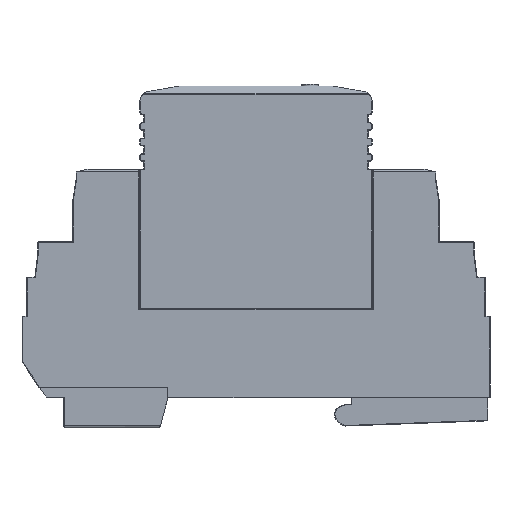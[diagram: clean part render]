
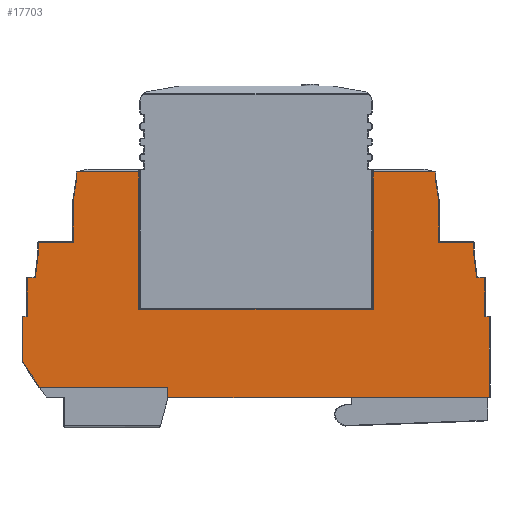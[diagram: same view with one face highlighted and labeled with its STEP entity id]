
A CAD part, front view. The second image highlights one B-rep face of the part: STEP entity #17703.
In plain terms, the highlighted planar face has unit normal (0, -1, 0).
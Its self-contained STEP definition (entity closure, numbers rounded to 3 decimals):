
#288=PLANE('',#18951);
#1057=FACE_OUTER_BOUND('',#2085,.T.);
#2085=EDGE_LOOP('',(#12901,#12902,#12903,#12904,#12905,#12906,#12907,#12908,
#12909,#12910,#12911,#12912,#12913,#12914,#12915,#12916,#12917,#12918,#12919,
#12920,#12921,#12922,#12923,#12924,#12925,#12926,#12927,#12928,#12929));
#4013=LINE('',#26684,#6019);
#4016=LINE('',#26699,#6022);
#4019=LINE('',#26716,#6025);
#4022=LINE('',#26726,#6028);
#4035=LINE('',#26768,#6041);
#4073=LINE('',#26846,#6079);
#4074=LINE('',#26848,#6080);
#4075=LINE('',#26850,#6081);
#4076=LINE('',#26852,#6082);
#4077=LINE('',#26854,#6083);
#4078=LINE('',#26856,#6084);
#4079=LINE('',#26858,#6085);
#4080=LINE('',#26860,#6086);
#4081=LINE('',#26862,#6087);
#4082=LINE('',#26864,#6088);
#4083=LINE('',#26866,#6089);
#4084=LINE('',#26868,#6090);
#4085=LINE('',#26870,#6091);
#4086=LINE('',#26872,#6092);
#4087=LINE('',#26874,#6093);
#4088=LINE('',#26876,#6094);
#4089=LINE('',#26878,#6095);
#4090=LINE('',#26880,#6096);
#4091=LINE('',#26882,#6097);
#4092=LINE('',#26884,#6098);
#4093=LINE('',#26886,#6099);
#4094=LINE('',#26888,#6100);
#4095=LINE('',#26890,#6101);
#4096=LINE('',#26891,#6102);
#6019=VECTOR('',#21191,10.);
#6022=VECTOR('',#21206,10.);
#6025=VECTOR('',#21225,10.);
#6028=VECTOR('',#21234,10.);
#6041=VECTOR('',#21281,10.);
#6079=VECTOR('',#21351,10.);
#6080=VECTOR('',#21352,10.);
#6081=VECTOR('',#21353,10.);
#6082=VECTOR('',#21354,10.);
#6083=VECTOR('',#21355,10.);
#6084=VECTOR('',#21356,10.);
#6085=VECTOR('',#21357,10.);
#6086=VECTOR('',#21358,10.);
#6087=VECTOR('',#21359,10.);
#6088=VECTOR('',#21360,10.);
#6089=VECTOR('',#21361,10.);
#6090=VECTOR('',#21362,10.);
#6091=VECTOR('',#21363,10.);
#6092=VECTOR('',#21364,10.);
#6093=VECTOR('',#21365,10.);
#6094=VECTOR('',#21366,10.);
#6095=VECTOR('',#21367,10.);
#6096=VECTOR('',#21368,10.);
#6097=VECTOR('',#21369,10.);
#6098=VECTOR('',#21370,10.);
#6099=VECTOR('',#21371,10.);
#6100=VECTOR('',#21372,10.);
#6101=VECTOR('',#21373,10.);
#6102=VECTOR('',#21374,10.);
#8000=VERTEX_POINT('',#26677);
#8002=VERTEX_POINT('',#26682);
#8008=VERTEX_POINT('',#26698);
#8013=VERTEX_POINT('',#26711);
#8014=VERTEX_POINT('',#26715);
#8018=VERTEX_POINT('',#26725);
#8054=VERTEX_POINT('',#26845);
#8055=VERTEX_POINT('',#26847);
#8056=VERTEX_POINT('',#26849);
#8057=VERTEX_POINT('',#26851);
#8058=VERTEX_POINT('',#26853);
#8059=VERTEX_POINT('',#26855);
#8060=VERTEX_POINT('',#26857);
#8061=VERTEX_POINT('',#26859);
#8062=VERTEX_POINT('',#26861);
#8063=VERTEX_POINT('',#26863);
#8064=VERTEX_POINT('',#26865);
#8065=VERTEX_POINT('',#26867);
#8066=VERTEX_POINT('',#26869);
#8067=VERTEX_POINT('',#26871);
#8068=VERTEX_POINT('',#26873);
#8069=VERTEX_POINT('',#26875);
#8070=VERTEX_POINT('',#26877);
#8071=VERTEX_POINT('',#26879);
#8072=VERTEX_POINT('',#26881);
#8073=VERTEX_POINT('',#26883);
#8074=VERTEX_POINT('',#26885);
#8075=VERTEX_POINT('',#26887);
#8076=VERTEX_POINT('',#26889);
#9788=EDGE_CURVE('',#8002,#8000,#4013,.T.);
#9795=EDGE_CURVE('',#8000,#8008,#4016,.T.);
#9803=EDGE_CURVE('',#8014,#8013,#4019,.T.);
#9808=EDGE_CURVE('',#8013,#8018,#4022,.T.);
#9830=EDGE_CURVE('',#8008,#8014,#4035,.T.);
#9872=EDGE_CURVE('',#8054,#8002,#4073,.T.);
#9873=EDGE_CURVE('',#8055,#8054,#4074,.T.);
#9874=EDGE_CURVE('',#8056,#8055,#4075,.T.);
#9875=EDGE_CURVE('',#8057,#8056,#4076,.T.);
#9876=EDGE_CURVE('',#8058,#8057,#4077,.T.);
#9877=EDGE_CURVE('',#8059,#8058,#4078,.T.);
#9878=EDGE_CURVE('',#8060,#8059,#4079,.T.);
#9879=EDGE_CURVE('',#8061,#8060,#4080,.T.);
#9880=EDGE_CURVE('',#8062,#8061,#4081,.T.);
#9881=EDGE_CURVE('',#8063,#8062,#4082,.T.);
#9882=EDGE_CURVE('',#8064,#8063,#4083,.T.);
#9883=EDGE_CURVE('',#8064,#8065,#4084,.T.);
#9884=EDGE_CURVE('',#8065,#8066,#4085,.T.);
#9885=EDGE_CURVE('',#8067,#8066,#4086,.T.);
#9886=EDGE_CURVE('',#8068,#8067,#4087,.T.);
#9887=EDGE_CURVE('',#8069,#8068,#4088,.T.);
#9888=EDGE_CURVE('',#8070,#8069,#4089,.T.);
#9889=EDGE_CURVE('',#8071,#8070,#4090,.T.);
#9890=EDGE_CURVE('',#8072,#8071,#4091,.T.);
#9891=EDGE_CURVE('',#8073,#8072,#4092,.T.);
#9892=EDGE_CURVE('',#8074,#8073,#4093,.T.);
#9893=EDGE_CURVE('',#8075,#8074,#4094,.T.);
#9894=EDGE_CURVE('',#8076,#8075,#4095,.T.);
#9895=EDGE_CURVE('',#8018,#8076,#4096,.T.);
#12901=ORIENTED_EDGE('',*,*,#9808,.F.);
#12902=ORIENTED_EDGE('',*,*,#9803,.F.);
#12903=ORIENTED_EDGE('',*,*,#9830,.F.);
#12904=ORIENTED_EDGE('',*,*,#9795,.F.);
#12905=ORIENTED_EDGE('',*,*,#9788,.F.);
#12906=ORIENTED_EDGE('',*,*,#9872,.F.);
#12907=ORIENTED_EDGE('',*,*,#9873,.F.);
#12908=ORIENTED_EDGE('',*,*,#9874,.F.);
#12909=ORIENTED_EDGE('',*,*,#9875,.F.);
#12910=ORIENTED_EDGE('',*,*,#9876,.F.);
#12911=ORIENTED_EDGE('',*,*,#9877,.F.);
#12912=ORIENTED_EDGE('',*,*,#9878,.F.);
#12913=ORIENTED_EDGE('',*,*,#9879,.F.);
#12914=ORIENTED_EDGE('',*,*,#9880,.F.);
#12915=ORIENTED_EDGE('',*,*,#9881,.F.);
#12916=ORIENTED_EDGE('',*,*,#9882,.F.);
#12917=ORIENTED_EDGE('',*,*,#9883,.T.);
#12918=ORIENTED_EDGE('',*,*,#9884,.T.);
#12919=ORIENTED_EDGE('',*,*,#9885,.F.);
#12920=ORIENTED_EDGE('',*,*,#9886,.F.);
#12921=ORIENTED_EDGE('',*,*,#9887,.F.);
#12922=ORIENTED_EDGE('',*,*,#9888,.F.);
#12923=ORIENTED_EDGE('',*,*,#9889,.F.);
#12924=ORIENTED_EDGE('',*,*,#9890,.F.);
#12925=ORIENTED_EDGE('',*,*,#9891,.F.);
#12926=ORIENTED_EDGE('',*,*,#9892,.F.);
#12927=ORIENTED_EDGE('',*,*,#9893,.F.);
#12928=ORIENTED_EDGE('',*,*,#9894,.F.);
#12929=ORIENTED_EDGE('',*,*,#9895,.F.);
#17703=ADVANCED_FACE('',(#1057),#288,.T.);
#18951=AXIS2_PLACEMENT_3D('',#26844,#21349,#21350);
#21191=DIRECTION('',(1.,0.,0.));
#21206=DIRECTION('',(0.,0.,-1.));
#21225=DIRECTION('',(0.,0.,1.));
#21234=DIRECTION('',(1.,0.,0.));
#21281=DIRECTION('',(1.,0.,0.));
#21349=DIRECTION('center_axis',(0.,-1.,0.));
#21350=DIRECTION('ref_axis',(1.,0.,0.));
#21351=DIRECTION('',(0.,0.,1.));
#21352=DIRECTION('',(0.154,0.,0.988));
#21353=DIRECTION('',(0.,0.,1.));
#21354=DIRECTION('',(1.,0.,0.));
#21355=DIRECTION('',(0.,0.,1.));
#21356=DIRECTION('',(0.124,0.,0.992));
#21357=DIRECTION('',(1.,0.,0.));
#21358=DIRECTION('',(0.,0.,1.));
#21359=DIRECTION('',(1.,0.,0.));
#21360=DIRECTION('',(0.,0.,1.));
#21361=DIRECTION('',(-0.553,0.,0.833));
#21362=DIRECTION('',(1.,0.,0.));
#21363=DIRECTION('',(0.,0.,-1.));
#21364=DIRECTION('',(-1.,0.,0.));
#21365=DIRECTION('',(0.,0.,-1.));
#21366=DIRECTION('',(1.,0.,0.));
#21367=DIRECTION('',(0.,0.,-1.));
#21368=DIRECTION('',(1.,0.,0.));
#21369=DIRECTION('',(0.124,0.,-0.992));
#21370=DIRECTION('',(0.,0.,-1.));
#21371=DIRECTION('',(1.,0.,0.));
#21372=DIRECTION('',(0.,0.,-1.));
#21373=DIRECTION('',(0.154,0.,-0.988));
#21374=DIRECTION('',(0.,0.,-1.));
#26677=CARTESIAN_POINT('',(-22.725,-8.75,40.609));
#26682=CARTESIAN_POINT('',(-34.688,-8.75,40.609));
#26684=CARTESIAN_POINT('',(-33.931,-8.75,40.609));
#26698=CARTESIAN_POINT('',(-22.725,-8.75,14.15));
#26699=CARTESIAN_POINT('',(-22.725,-8.75,31.025));
#26711=CARTESIAN_POINT('',(22.475,-8.75,40.609));
#26715=CARTESIAN_POINT('',(22.475,-8.75,14.15));
#26716=CARTESIAN_POINT('',(22.475,-8.75,18.575));
#26725=CARTESIAN_POINT('',(34.438,-8.75,40.609));
#26726=CARTESIAN_POINT('',(-33.931,-8.75,40.609));
#26768=CARTESIAN_POINT('',(-22.663,-8.75,14.15));
#26844=CARTESIAN_POINT('Origin',(-45.2,-8.75,20.9));
#26845=CARTESIAN_POINT('',(-34.688,-8.75,39.143));
#26846=CARTESIAN_POINT('',(-34.688,-8.75,31.025));
#26847=CARTESIAN_POINT('',(-35.375,-8.75,34.742));
#26848=CARTESIAN_POINT('',(-36.204,-8.75,29.433));
#26849=CARTESIAN_POINT('',(-35.375,-8.75,27.05));
#26850=CARTESIAN_POINT('',(-35.375,-8.75,27.825));
#26851=CARTESIAN_POINT('',(-42.025,-8.75,27.05));
#26852=CARTESIAN_POINT('',(-22.663,-8.75,27.05));
#26853=CARTESIAN_POINT('',(-42.025,-8.75,25.144));
#26854=CARTESIAN_POINT('',(-42.025,-8.75,24.525));
#26855=CARTESIAN_POINT('',(-42.637,-8.75,20.25));
#26856=CARTESIAN_POINT('',(-42.311,-8.75,22.856));
#26857=CARTESIAN_POINT('',(-44.175,-8.75,20.25));
#26858=CARTESIAN_POINT('',(-43.963,-8.75,20.25));
#26859=CARTESIAN_POINT('',(-44.175,-8.75,12.75));
#26860=CARTESIAN_POINT('',(-44.175,-8.75,20.625));
#26861=CARTESIAN_POINT('',(-45.1,-8.75,12.75));
#26862=CARTESIAN_POINT('',(-44.738,-8.75,12.75));
#26863=CARTESIAN_POINT('',(-45.1,-8.75,4.08));
#26864=CARTESIAN_POINT('',(-45.1,-8.75,20.9));
#26865=CARTESIAN_POINT('',(-41.83,-8.75,-0.85));
#26866=CARTESIAN_POINT('',(-48.185,-8.75,8.731));
#26867=CARTESIAN_POINT('',(-17.1,-8.75,-0.85));
#26868=CARTESIAN_POINT('',(-45.2,-8.75,-0.85));
#26869=CARTESIAN_POINT('',(-17.1,-8.75,-2.85));
#26870=CARTESIAN_POINT('',(-17.1,-8.75,10.025));
#26871=CARTESIAN_POINT('',(44.85,-8.75,-2.85));
#26872=CARTESIAN_POINT('',(44.95,-8.75,-2.85));
#26873=CARTESIAN_POINT('',(44.85,-8.75,12.75));
#26874=CARTESIAN_POINT('',(44.85,-8.75,20.9));
#26875=CARTESIAN_POINT('',(43.925,-8.75,12.75));
#26876=CARTESIAN_POINT('',(-0.125,-8.75,12.75));
#26877=CARTESIAN_POINT('',(43.925,-8.75,20.25));
#26878=CARTESIAN_POINT('',(43.925,-8.75,16.875));
#26879=CARTESIAN_POINT('',(42.387,-8.75,20.25));
#26880=CARTESIAN_POINT('',(-0.587,-8.75,20.25));
#26881=CARTESIAN_POINT('',(41.775,-8.75,25.144));
#26882=CARTESIAN_POINT('',(41.668,-8.75,26.004));
#26883=CARTESIAN_POINT('',(41.775,-8.75,27.05));
#26884=CARTESIAN_POINT('',(41.775,-8.75,23.025));
#26885=CARTESIAN_POINT('',(35.125,-8.75,27.05));
#26886=CARTESIAN_POINT('',(-22.663,-8.75,27.05));
#26887=CARTESIAN_POINT('',(35.125,-8.75,34.742));
#26888=CARTESIAN_POINT('',(35.125,-8.75,24.525));
#26889=CARTESIAN_POINT('',(34.438,-8.75,39.142));
#26890=CARTESIAN_POINT('',(35.224,-8.75,34.108));
#26891=CARTESIAN_POINT('',(34.438,-8.75,30.025));
